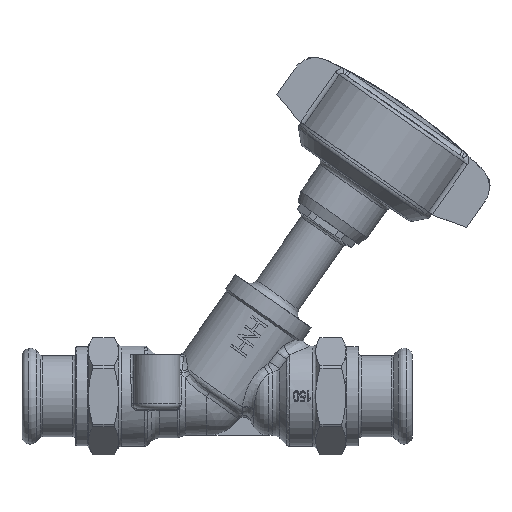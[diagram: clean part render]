
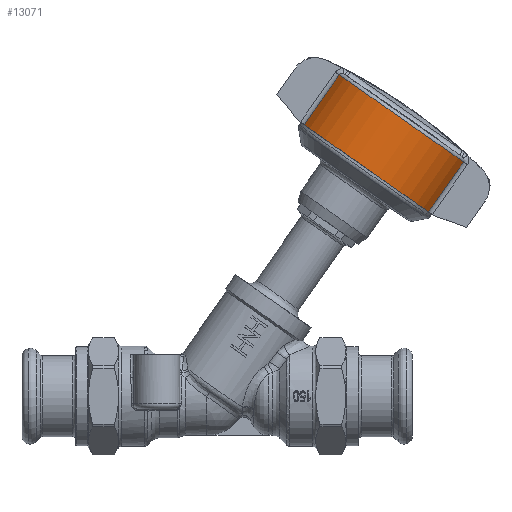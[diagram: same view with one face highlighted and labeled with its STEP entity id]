
A CAD part, front view. The second image highlights one B-rep face of the part: STEP entity #13071.
In plain terms, the highlighted cylindrical face has radius 31.925 mm (diameter 63.85 mm), a partial arc.
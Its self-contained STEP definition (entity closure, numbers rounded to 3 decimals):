
#11930=CARTESIAN_POINT('',(45.681,-12.348,91.032));
#11931=VERTEX_POINT('',#11930);
#11939=CARTESIAN_POINT('',(32.088,-12.348,71.618));
#11940=VERTEX_POINT('',#11939);
#11941=CARTESIAN_POINT('',(45.681,-12.348,91.032));
#11942=DIRECTION('',(-0.574,0.,-0.819));
#11943=VECTOR('',#11942,23.7);
#11944=LINE('',#11941,#11943);
#11945=EDGE_CURVE('',#11931,#11940,#11944,.T.);
#12340=CARTESIAN_POINT('',(-2.565,-12.308,124.814));
#12341=VERTEX_POINT('',#12340);
#12371=CARTESIAN_POINT('',(-16.158,-12.308,105.4));
#12372=VERTEX_POINT('',#12371);
#12380=CARTESIAN_POINT('',(-16.158,-12.308,105.4));
#12381=DIRECTION('',(0.574,0.,0.819));
#12382=VECTOR('',#12381,23.7);
#12383=LINE('',#12380,#12382);
#12384=EDGE_CURVE('',#12372,#12341,#12383,.T.);
#13044=CARTESIAN_POINT('',(21.565,0.,107.918));
#13045=DIRECTION('',(-0.574,0.,-0.819));
#13046=DIRECTION('',(0.819,-0.001,-0.574));
#13047=AXIS2_PLACEMENT_3D('',#13044,#13045,#13046);
#13048=CIRCLE('',#13047,31.925);
#13049=EDGE_CURVE('',#11931,#12341,#13048,.T.);
#13054=CARTESIAN_POINT('',(14.768,0.,98.211));
#13055=DIRECTION('',(-0.574,0.,-0.819));
#13056=DIRECTION('',(0.819,-0.001,-0.574));
#13057=AXIS2_PLACEMENT_3D('',#13054,#13055,#13056);
#13058=CYLINDRICAL_SURFACE('',#13057,31.925);
#13059=ORIENTED_EDGE('',*,*,#11945,.F.);
#13060=ORIENTED_EDGE('',*,*,#13049,.T.);
#13061=ORIENTED_EDGE('',*,*,#12384,.F.);
#13062=CARTESIAN_POINT('',(7.971,0.,88.504));
#13063=DIRECTION('',(-0.574,0.,-0.819));
#13064=DIRECTION('',(0.819,-0.001,-0.574));
#13065=AXIS2_PLACEMENT_3D('',#13062,#13063,#13064);
#13066=CIRCLE('',#13065,31.925);
#13067=EDGE_CURVE('',#11940,#12372,#13066,.T.);
#13068=ORIENTED_EDGE('',*,*,#13067,.F.);
#13069=EDGE_LOOP('',(#13059,#13060,#13061,#13068));
#13070=FACE_OUTER_BOUND('',#13069,.T.);
#13071=ADVANCED_FACE('',(#13070),#13058,.T.);
